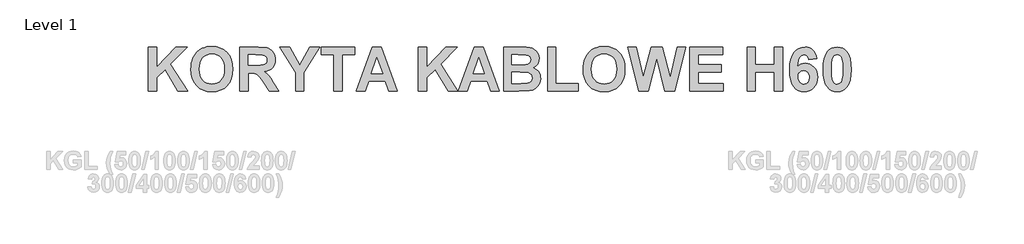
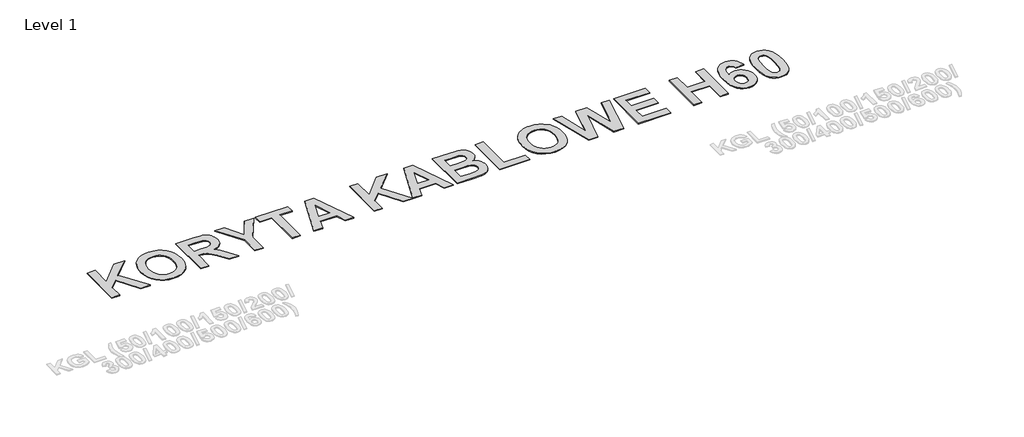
# One storey, part 26 of 42: 1 proxy.
"""IFC4 building model written with IfcOpenShell, lengths in millimetres."""

import ifcopenshell
import ifcopenshell.guid

model = None  # the IFC model being written
_history = None  # IfcOwnerHistory: only IFC2X3 demands one
_inside = {}  # id of a spatial element -> (the spatial element, [elements in it])
_under = {}  # id of a project, library or spatial element -> (it, [spatial elements below it])
_declared = {}  # id of a project -> (the project, [libraries it declares])
_typed = {}  # id of a type object -> (the type object, [elements of that type])
_made_of = {}  # id of a material, layer set ... -> (it, [elements and type objects made of it])


def new_model(schema):
    """Start an empty IFC model of exactly this schema.

    Asked for "IFC4X3", IfcOpenShell would pick the latest addendum, in which some entities
    have other attributes; the version numbers below select the first issue.
    IFC2X3 requires an IfcOwnerHistory on every rooted entity: one is made here for all.
    """
    global model, _history
    if schema == "IFC4X3":
        model = ifcopenshell.file(schema_version=(4, 3, 0, 0))
    else:
        model = ifcopenshell.file(schema=schema)
    _inside.clear()
    _under.clear()
    _declared.clear()
    _typed.clear()
    _made_of.clear()
    _history = None
    if model.schema == "IFC2X3":
        org = make("IfcOrganization", Name="unknown")
        user = make(
            "IfcPersonAndOrganization",
            ThePerson=make("IfcPerson", FamilyName="unknown"),
            TheOrganization=org,
        )
        app = make(
            "IfcApplication",
            ApplicationDeveloper=org,
            Version="unknown",
            ApplicationFullName="unknown",
            ApplicationIdentifier="unknown",
        )
        _history = make(
            "IfcOwnerHistory",
            OwningUser=user,
            OwningApplication=app,
            ChangeAction="ADDED",
            CreationDate=0,
        )
    return model


def make(cls, **values):
    """One entity of the class cls with the attributes given. An attribute that is None is left unset."""
    return model.create_entity(
        cls, **{name: value for name, value in values.items() if value is not None}
    )


def rooted(cls, **values):
    """An entity with a GlobalId (a new one), such as an element, a storey or a relation."""
    return make(cls, GlobalId=ifcopenshell.guid.new(), OwnerHistory=_history, **values)


def si_unit(unit_type, name, prefix=None):
    """IfcSIUnit, for example si_unit("LENGTHUNIT", "METRE", prefix="MILLI")."""
    return make("IfcSIUnit", UnitType=unit_type, Prefix=prefix, Name=name)


def assignment(units):
    """IfcUnitAssignment: the units of a project."""
    return None if units is None else make("IfcUnitAssignment", Units=units)


def point(xyz):
    """IfcCartesianPoint."""
    return None if xyz is None else make("IfcCartesianPoint", Coordinates=xyz)


def direction(xyz):
    """IfcDirection."""
    return None if xyz is None else make("IfcDirection", DirectionRatios=xyz)


def frame(location, z_axis=None, x_axis=None):
    """IfcAxis2Placement3D, a coordinate frame: its origin and axes. An axis left out is left unset."""
    return make(
        "IfcAxis2Placement3D",
        Location=point(location),
        Axis=direction(z_axis),
        RefDirection=direction(x_axis),
    )


def origin():
    """The frame at (0, 0, 0) with its axes left unset."""
    return frame((0.0, 0.0, 0.0))


def origin_with_axes():
    """The frame at (0, 0, 0) with the z axis (0, 0, 1) and the x axis (1, 0, 0) written out."""
    return frame((0.0, 0.0, 0.0), z_axis=(0.0, 0.0, 1.0), x_axis=(1.0, 0.0, 0.0))


def place(relative_to, where):
    """IfcLocalPlacement: puts the frame where relative to a parent placement (None: the world)."""
    return make(
        "IfcLocalPlacement", PlacementRelTo=relative_to, RelativePlacement=where
    )


def context(
    kind, dimensions, precision=None, world=None, true_north=None, identifier=None
):
    """IfcGeometricRepresentationContext, for example the 3D "Model" context."""
    return make(
        "IfcGeometricRepresentationContext",
        ContextIdentifier=identifier,
        ContextType=kind,
        CoordinateSpaceDimension=dimensions,
        Precision=precision,
        WorldCoordinateSystem=world,
        TrueNorth=true_north,
    )


def project(units=None, contexts=None):
    """IfcProject with its units and contexts."""
    return rooted(
        "IfcProject",
        Name="project",
        RepresentationContexts=contexts,
        UnitsInContext=assignment(units),
    )


def spatial(cls, under=None, at=None, **own):
    """A site, building, storey or space (cls), placed at a placement, below another one or the project."""
    s = rooted(cls, ObjectPlacement=at, **own)
    if under is not None:
        _under.setdefault(under.id(), (under, []))[1].append(s)
    return s


def polyline(points):
    """IfcPolyline through the points."""
    return make("IfcPolyline", Points=[point(p) for p in points])


def outline(outer, holes=None, kind="AREA"):
    """IfcArbitraryClosedProfileDef: a profile drawn as a closed curve; with holes, ...WithVoids."""
    if holes is None:
        return make("IfcArbitraryClosedProfileDef", ProfileType=kind, OuterCurve=outer)
    return make(
        "IfcArbitraryProfileDefWithVoids",
        ProfileType=kind,
        OuterCurve=outer,
        InnerCurves=holes,
    )


def extrude(swept, where, along, depth):
    """IfcExtrudedAreaSolid: the profile swept, set in the frame where, extruded along a direction by depth."""
    return make(
        "IfcExtrudedAreaSolid",
        SweptArea=swept,
        Position=where,
        ExtrudedDirection=direction(along),
        Depth=depth,
    )


def shape(context_of_items, identifier, shape_type, items):
    """IfcShapeRepresentation: the items that make up one representation, for example the "Body"."""
    return make(
        "IfcShapeRepresentation",
        ContextOfItems=context_of_items,
        RepresentationIdentifier=identifier,
        RepresentationType=shape_type,
        Items=items,
    )


def made_of(thing, what):
    """Note that an element or type object is made of a material, layer set ...; save() writes the relation."""
    if what is not None:
        _made_of.setdefault(what.id(), (what, []))[1].append(thing)
    return thing


def element(
    cls,
    number,
    at=None,
    inside=None,
    cuts=None,
    type_object=None,
    material=None,
    context=None,
    identifier="Body",
    shape_type=None,
    held_by="IfcProductDefinitionShape",
    body=None,
    shapes=None,
    **own,
):
    """One element of the class cls, such as IfcWall. Its Tag is "e" and its number.

    at: its placement. inside: the storey or other place that contains it. cuts: it is an
    opening in that element (IfcRelVoidsElement). A single representation is given by context,
    identifier, shape_type and body (its items); several are given by shapes. held_by: the class
    of the entity that holds the representations. save() writes the other relations.
    """
    e = rooted(cls, Tag="e%d" % number, ObjectPlacement=at, **own)
    if body is not None:
        shapes = [shape(context, identifier, shape_type, body)]
    if shapes is not None:
        e.Representation = make(held_by, Representations=shapes)
    if inside is not None:
        _inside.setdefault(inside.id(), (inside, []))[1].append(e)
    if cuts is not None:
        rooted(
            "IfcRelVoidsElement", RelatingBuildingElement=cuts, RelatedOpeningElement=e
        )
    if type_object is not None:
        _typed.setdefault(type_object.id(), (type_object, []))[1].append(e)
    return made_of(e, material)


def aggregate(whole, parts):
    """IfcRelAggregates: a whole, such as a stair, and the parts it consists of."""
    return rooted("IfcRelAggregates", RelatingObject=whole, RelatedObjects=parts)


def save(model, path):
    """Write the relations noted so far, then the file.

    IfcRelAggregates (storeys below a building ...), IfcRelContainedInSpatialStructure (elements
    in a storey), IfcRelDefinesByType, IfcRelAssociatesMaterial and IfcRelDeclares: one each for
    every whole, place, type object, material and project.
    """
    for whole, parts in _under.values():
        aggregate(whole, parts)
    for where, things in _inside.values():
        rooted(
            "IfcRelContainedInSpatialStructure",
            RelatedElements=things,
            RelatingStructure=where,
        )
    for kind, things in _typed.values():
        rooted("IfcRelDefinesByType", RelatedObjects=things, RelatingType=kind)
    for what, things in _made_of.values():
        rooted("IfcRelAssociatesMaterial", RelatedObjects=things, RelatingMaterial=what)
    for by, libraries in _declared.values():
        rooted("IfcRelDeclares", RelatingContext=by, RelatedDefinitions=libraries)
    model.write(path)


model = new_model("IFC4")

# Units and contexts
model_context = context("Model", 3, world=origin())
ifc_project = project(units=[si_unit("LENGTHUNIT", "METRE", prefix="MILLI")], contexts=[model_context])

# Site, building, storey
site = spatial("IfcSite", under=ifc_project)
building = spatial("IfcBuilding", under=site)
storey = spatial("IfcBuildingStorey", under=building, Name="Level 1", Elevation=0.0)

# Proxy
placement = place(None, origin())
element("IfcBuildingElementProxy", 1, Name="600mm Arial", ObjectType="600mm Arial", at=placement, inside=storey, context=model_context, shape_type="SweptSolid", body=[
    extrude(outline(polyline([(-15336.5349391, 22362.9826538), (-15336.5349391, 22975.1382937), (-15219.9338648, 22975.1382937), (-15219.9338648, 22696.0852019), (-14957.2777991, 22975.1382937), (-14797.2549705, 22975.1382937), (-15028.938876, 22741.3288479), (-14787.5382144, 22362.9826538), (-14923.8764496, 22362.9826538), (-15104.6992094, 22664.6575686), (-15219.9338648, 22548.2083186), (-15219.9338648, 22362.9826538), (-15336.5349391, 22362.9826538)])), origin_with_axes(), (0.0, 0.0, 1.0), 10.0),
    extrude(outline(polyline([(-14743.8128115, 22665.2648659), (-14742.0952989, 22710.072017), (-14736.9427612, 22751.1215163), (-14728.3551984, 22788.4133637), (-14716.3326104, 22821.9475594), (-14692.097654, 22866.1853693), (-14660.3853502, 22905.6786694), (-14623.245327, 22937.9982706), (-14582.7272128, 22960.7149838), (-14553.5579662, 22971.2762627), (-14522.2252231, 22978.8200334), (-14488.7289835, 22983.3462958), (-14453.0692474, 22984.8550499), (-14389.9672663, 22979.6218555), (-14333.5075989, 22963.9222724), (-14283.6902454, 22937.7563006), (-14240.5152057, 22901.1239399), (-14221.8336982, 22879.1699067), (-14205.6430583, 22855.173362), (-14180.7343815, 22801.052738), (-14165.7891754, 22738.7620681), (-14160.8074401, 22668.3013522), (-14165.7512194, 22598.3198317), (-14180.5825572, 22536.4039781), (-14205.3014536, 22482.5537912), (-14221.3687362, 22458.6533228), (-14239.9079085, 22436.7692711), (-14282.7982776, 22400.2365452), (-14332.3689166, 22374.1417409), (-14388.6198255, 22358.4848584), (-14451.5510042, 22353.2658976), (-14515.1464144, 22358.4611359), (-14571.8717742, 22374.0468507), (-14621.7270838, 22400.0230422), (-14664.7123431, 22436.3897103), (-14699.3187981, 22481.8658373), (-14724.0376944, 22535.1704055), (-14738.8690322, 22596.3034151), (-14743.8128115, 22665.2648659)]), holes=[polyline([(-14627.2117372, 22669.5159467), (-14624.1135723, 22621.0934791), (-14614.8190775, 22578.9147864), (-14599.3282528, 22542.9798688), (-14577.6410982, 22513.2887261), (-14551.1809667, 22490.0406278), (-14521.3712113, 22473.4348433), (-14488.2118319, 22463.4713726), (-14451.7028285, 22460.1502157), (-14415.2317813, 22463.44765), (-14382.1862701, 22473.3399531), (-14352.566295, 22489.8271248), (-14326.3718561, 22512.9091653), (-14304.9503941, 22542.5860744), (-14289.6493498, 22578.8578523), (-14280.4687232, 22621.7244989), (-14277.4085144, 22671.1860142), (-14280.3880666, 22719.9595755), (-14289.3267231, 22762.1287791), (-14304.2244841, 22797.693625), (-14325.0813494, 22826.6541132), (-14350.872505, 22849.1051338), (-14380.5731367, 22865.1415772), (-14414.1832446, 22874.7634432), (-14451.7028285, 22877.9707318), (-14489.2603686, 22874.7254871), (-14522.9843447, 22864.9897529), (-14552.8747568, 22848.7635291), (-14578.9316049, 22826.0468159), (-14600.0541628, 22796.7921681), (-14615.1417041, 22760.9521407), (-14624.194229, 22718.5267335), (-14627.2117372, 22669.5159467)])]), origin_with_axes(), (0.0, 0.0, 1.0), 10.0),
    extrude(outline(polyline([(-14063.6398782, 22362.9826538), (-14063.6398782, 22975.1382937), (-13806.1458392, 22975.1382937), (-13722.2629049, 22971.0010811), (-13690.2849084, 22965.8295654), (-13664.9492258, 22958.5894433), (-13644.0354263, 22948.7018848), (-13625.3230794, 22935.5880595), (-13608.8121851, 22919.2479676), (-13594.5027434, 22899.6816089), (-13582.9451174, 22877.7335063), (-13574.6896702, 22854.2481825), (-13569.7364019, 22829.2256375), (-13568.0853125, 22802.6658714), (-13570.471801, 22769.5586816), (-13577.6312663, 22739.469), (-13589.5637086, 22712.3968268), (-13606.2691278, 22688.3421618), (-13627.7285459, 22667.8838353), (-13653.9229849, 22651.6006775), (-13684.8524446, 22639.4926883), (-13720.5169252, 22631.5598678), (-13686.698059, 22607.1920652), (-13659.3317261, 22580.5468978), (-13631.0164913, 22541.9455656), (-13594.3509191, 22481.7092684), (-13519.5015316, 22362.9826538), (-13655.6879425, 22362.9826538), (-13744.3533428, 22502.8128483), (-13787.1867778, 22556.5017219), (-13813.9647914, 22585.7848367), (-13833.2844356, 22600.1891686), (-13853.7427621, 22609.2416934), (-13880.9003365, 22614.0241594), (-13920.3177244, 22615.6183147), (-13947.0388039, 22615.6183147), (-13947.0388039, 22362.9826538), (-14063.6398782, 22362.9826538)]), holes=[polyline([(-13947.0388039, 22722.5026328), (-13850.9340122, 22722.5026328), (-13775.0787886, 22724.2675905), (-13734.2570258, 22729.5624635), (-13713.4950506, 22739.1653514), (-13697.8191901, 22753.8543539), (-13687.9695876, 22773.2309322), (-13684.6863868, 22796.8965474), (-13689.0133798, 22823.1052198), (-13701.9943587, 22843.7343487), (-13722.8702021, 22858.2905049), (-13750.8817883, 22866.2802595), (-13845.6201612, 22868.2539756), (-13947.0388039, 22868.2539756), (-13947.0388039, 22722.5026328)])]), origin_with_axes(), (0.0, 0.0, 1.0), 10.0),
    extrude(outline(polyline([(-13286.299383, 22362.9826538), (-13286.299383, 22620.6285171), (-13504.9263973, 22975.1382937), (-13369.8027565, 22975.1382937), (-13228.3024945, 22723.565403), (-13086.1949352, 22975.1382937), (-12951.0712944, 22975.1382937), (-13169.6983087, 22619.7175712), (-13169.6983087, 22362.9826538), (-13286.299383, 22362.9826538)])), origin_with_axes(), (0.0, 0.0, 1.0), 10.0),
    extrude(outline(polyline([(-12751.8777925, 22362.9826538), (-12751.8777925, 22868.2539756), (-12926.779404, 22868.2539756), (-12926.779404, 22975.1382937), (-12460.3751068, 22975.1382937), (-12460.3751068, 22868.2539756), (-12635.2767183, 22868.2539756), (-12635.2767183, 22362.9826538), (-12751.8777925, 22362.9826538)])), origin_with_axes(), (0.0, 0.0, 1.0), 10.0),
    extrude(outline(polyline([(-11867.6529792, 22362.9826538), (-11990.1752018, 22362.9826538), (-12038.1516855, 22499.0172404), (-12269.380118, 22499.0172404), (-12316.7493044, 22362.9826538), (-12440.9415945, 22362.9826538), (-12217.4562021, 22975.1382937), (-12093.263912, 22975.1382937), (-11867.6529792, 22362.9826538)]), holes=[polyline([(-12075.5004671, 22605.9015585), (-12154.2972868, 22829.3869509), (-12232.0313364, 22605.9015585), (-12075.5004671, 22605.9015585)])]), origin_with_axes(), (0.0, 0.0, 1.0), 10.0),
    extrude(outline(polyline([(-11576.1502935, 22362.9826538), (-11576.1502935, 22975.1382937), (-11459.5492193, 22975.1382937), (-11459.5492193, 22696.0852019), (-11196.8931535, 22975.1382937), (-11036.870325, 22975.1382937), (-11268.5542304, 22741.3288479), (-11027.1535688, 22362.9826538), (-11163.4918041, 22362.9826538), (-11344.3145638, 22664.6575686), (-11459.5492193, 22548.2083186), (-11459.5492193, 22362.9826538), (-11576.1502935, 22362.9826538)])), origin_with_axes(), (0.0, 0.0, 1.0), 10.0),
    extrude(outline(polyline([(-10449.0065755, 22362.9826538), (-10571.5287981, 22362.9826538), (-10619.5052818, 22499.0172404), (-10850.7337142, 22499.0172404), (-10898.1029007, 22362.9826538), (-11022.2951907, 22362.9826538), (-10798.8097983, 22975.1382937), (-10674.6175083, 22975.1382937), (-10449.0065755, 22362.9826538)]), holes=[polyline([(-10656.8540634, 22605.9015585), (-10735.6508831, 22829.3869509), (-10813.3849326, 22605.9015585), (-10656.8540634, 22605.9015585)])]), origin_with_axes(), (0.0, 0.0, 1.0), 10.0),
    extrude(outline(polyline([(-10390.7060384, 22975.1382937), (-10139.4367963, 22975.1382937), (-10074.361099, 22973.6200506), (-10028.2254852, 22969.0653211), (-9993.495673, 22959.6711916), (-9962.6373809, 22943.6347483), (-9936.1250598, 22921.0888374), (-9914.4331607, 22892.1663053), (-9899.9718947, 22858.1007245), (-9895.1514727, 22820.1256676), (-9900.9018186, 22778.7535417), (-9918.1528565, 22740.873375), (-9945.2724748, 22709.2559613), (-9980.6285623, 22686.6720943), (-9956.8111228, 22677.1261405), (-9935.9163014, 22664.7334807), (-9917.944098, 22649.4941151), (-9902.8945127, 22631.4080435), (-9891.004771, 22611.0351182), (-9882.5120984, 22588.9351912), (-9877.4164948, 22565.1082627), (-9875.7179603, 22539.5543326), (-9880.5953164, 22498.5427894), (-9895.2273848, 22458.7078847), (-9918.3046808, 22423.4087313), (-9948.5177195, 22396.0044424), (-9986.2270839, 22377.045381), (-10031.7933566, 22367.0819103), (-10181.4921316, 22362.9826538), (-10390.7060384, 22362.9826538), (-10390.7060384, 22975.1382937)]), holes=[polyline([(-10274.1049641, 22625.3350709), (-10274.1049641, 22469.8669718), (-10150.8236199, 22469.8669718), (-10059.425382, 22473.5107554), (-10032.4386099, 22481.6523343), (-10010.9934254, 22496.6639635), (-9996.9876323, 22518.2419944), (-9992.3190346, 22546.0827782), (-9995.9248621, 22570.2228444), (-10006.7423445, 22590.4154783), (-10024.3539651, 22606.1672511), (-10048.342207, 22616.9847335), (-10091.4603126, 22623.2474865), (-10166.4615244, 22625.3350709), (-10274.1049641, 22625.3350709)]), polyline([(-10274.1049641, 22868.2539756), (-10274.1049641, 22732.219389), (-10185.1359152, 22732.219389), (-10086.4501102, 22734.1931051), (-10055.3830596, 22741.2908918), (-10031.7174444, 22755.2966849), (-10016.7437713, 22775.527275), (-10011.7525469, 22801.2994525), (-10016.0605619, 22825.9519257), (-10028.9846067, 22845.5562405), (-10050.3728572, 22859.277363), (-10080.0734889, 22866.2802595), (-10196.0672659, 22868.2539756), (-10274.1049641, 22868.2539756)])]), origin_with_axes(), (0.0, 0.0, 1.0), 10.0),
    extrude(outline(polyline([(-9778.5503984, 22362.9826538), (-9778.5503984, 22975.1382937), (-9661.9493241, 22975.1382937), (-9661.9493241, 22469.8669718), (-9351.013126, 22469.8669718), (-9351.013126, 22362.9826538), (-9778.5503984, 22362.9826538)])), origin_with_axes(), (0.0, 0.0, 1.0), 10.0),
    extrude(outline(polyline([(-9282.9958327, 22665.2648659), (-9281.2783201, 22710.072017), (-9276.1257824, 22751.1215163), (-9267.5382196, 22788.4133637), (-9255.5156316, 22821.9475594), (-9231.2806752, 22866.1853693), (-9199.5683713, 22905.6786694), (-9162.4283482, 22937.9982706), (-9121.910234, 22960.7149838), (-9092.7409874, 22971.2762627), (-9061.4082443, 22978.8200334), (-9027.9120047, 22983.3462958), (-8992.2522686, 22984.8550499), (-8929.1502874, 22979.6218555), (-8872.6906201, 22963.9222724), (-8822.8732666, 22937.7563006), (-8779.6982269, 22901.1239399), (-8761.0167193, 22879.1699067), (-8744.8260794, 22855.173362), (-8719.9174027, 22801.052738), (-8704.9721966, 22738.7620681), (-8699.9904613, 22668.3013522), (-8704.9342406, 22598.3198317), (-8719.7655784, 22536.4039781), (-8744.4844747, 22482.5537912), (-8760.5517574, 22458.6533228), (-8779.0909296, 22436.7692711), (-8821.9812988, 22400.2365452), (-8871.5519378, 22374.1417409), (-8927.8028466, 22358.4848584), (-8990.7340254, 22353.2658976), (-9054.3294355, 22358.4611359), (-9111.0547954, 22374.0468507), (-9160.910105, 22400.0230422), (-9203.8953643, 22436.3897103), (-9238.5018192, 22481.8658373), (-9263.2207156, 22535.1704055), (-9278.0520534, 22596.3034151), (-9282.9958327, 22665.2648659)]), holes=[polyline([(-9166.3947584, 22669.5159467), (-9163.2965935, 22621.0934791), (-9154.0020987, 22578.9147864), (-9138.511274, 22542.9798688), (-9116.8241194, 22513.2887261), (-9090.3639879, 22490.0406278), (-9060.5542325, 22473.4348433), (-9027.3948531, 22463.4713726), (-8990.8858497, 22460.1502157), (-8954.4148024, 22463.44765), (-8921.3692913, 22473.3399531), (-8891.7493162, 22489.8271248), (-8865.5548773, 22512.9091653), (-8844.1334153, 22542.5860744), (-8828.832371, 22578.8578523), (-8819.6517444, 22621.7244989), (-8816.5915356, 22671.1860142), (-8819.5710878, 22719.9595755), (-8828.5097443, 22762.1287791), (-8843.4075053, 22797.693625), (-8864.2643706, 22826.6541132), (-8890.0555262, 22849.1051338), (-8919.7561579, 22865.1415772), (-8953.3662658, 22874.7634432), (-8990.8858497, 22877.9707318), (-9028.4433898, 22874.7254871), (-9062.1673658, 22864.9897529), (-9092.0577779, 22848.7635291), (-9118.1146261, 22826.0468159), (-9139.237184, 22796.7921681), (-9154.3247253, 22760.9521407), (-9163.3772501, 22718.5267335), (-9166.3947584, 22669.5159467)])]), origin_with_axes(), (0.0, 0.0, 1.0), 10.0),
    extrude(outline(polyline([(-8507.0217563, 22362.9826538), (-8661.1234365, 22975.1382937), (-8541.4858759, 22975.1382937), (-8442.4964222, 22554.5849399), (-8336.0675771, 22975.1382937), (-8179.2330592, 22975.1382937), (-8073.259687, 22547.6010214), (-7974.2702333, 22975.1382937), (-7854.6326727, 22975.1382937), (-8006.4569882, 22362.9826538), (-8144.465291, 22362.9826538), (-8257.8780546, 22820.5811406), (-8373.568183, 22362.9826538), (-8507.0217563, 22362.9826538)])), origin_with_axes(), (0.0, 0.0, 1.0), 10.0),
    extrude(outline(polyline([(-7796.3321356, 22362.9826538), (-7796.3321356, 22975.1382937), (-7339.6445947, 22975.1382937), (-7339.6445947, 22868.2539756), (-7679.7310613, 22868.2539756), (-7679.7310613, 22732.219389), (-7359.0781071, 22732.219389), (-7359.0781071, 22625.3350709), (-7679.7310613, 22625.3350709), (-7679.7310613, 22469.8669718), (-7329.9278385, 22469.8669718), (-7329.9278385, 22362.9826538), (-7796.3321356, 22362.9826538)])), origin_with_axes(), (0.0, 0.0, 1.0), 10.0),
    extrude(outline(polyline([(-6999.558128, 22362.9826538), (-6999.558128, 22975.1382937), (-6882.9570537, 22975.1382937), (-6882.9570537, 22732.219389), (-6620.6046366, 22732.219389), (-6620.6046366, 22975.1382937), (-6504.0035623, 22975.1382937), (-6504.0035623, 22362.9826538), (-6620.6046366, 22362.9826538), (-6620.6046366, 22625.3350709), (-6882.9570537, 22625.3350709), (-6882.9570537, 22362.9826538), (-6999.558128, 22362.9826538)])), origin_with_axes(), (0.0, 0.0, 1.0), 10.0),
    extrude(outline(polyline([(-6027.882509, 22812.6862762), (-6144.4835833, 22800.2366823), (-6151.6193261, 22830.4686991), (-6165.1316902, 22851.6292131), (-6184.3374661, 22864.097785), (-6208.5534444, 22868.2539756), (-6225.5577678, 22866.2375589), (-6241.1956722, 22860.1883089), (-6255.4671579, 22850.1062254), (-6268.3722247, 22835.9913086), (-6279.4648888, 22815.4238584), (-6288.2991661, 22785.9841747), (-6294.8750568, 22747.6722576), (-6299.1925608, 22700.488107), (-6276.4758476, 22722.8727046), (-6251.1401649, 22738.8617028), (-6223.1855128, 22748.4551017), (-6192.6118913, 22751.6529014), (-6157.9247797, 22748.2368543), (-6125.8281705, 22737.988713), (-6096.3220637, 22720.9084775), (-6069.4064593, 22696.9961478), (-6046.9886502, 22667.6845659), (-6030.9759294, 22634.4065737), (-6021.368297, 22597.1621713), (-6018.1657528, 22555.9513587), (-6021.4394646, 22512.3635466), (-6031.2606, 22473.301997), (-6047.629159, 22438.7667097), (-6070.5451417, 22408.7576849), (-6098.604173, 22384.4800279), (-6130.401878, 22367.1388444), (-6165.9382569, 22356.7341343), (-6205.2133095, 22353.2658976), (-6247.2876229, 22357.7447149), (-6285.4524602, 22371.1811668), (-6319.7078214, 22393.5752533), (-6350.0537064, 22424.9269745), (-6374.8959601, 22466.4793918), (-6392.6404269, 22519.4755669), (-6403.2871071, 22583.9154998), (-6406.8360004, 22659.7991905), (-6403.1305382, 22737.6850643), (-6392.0141516, 22803.8804659), (-6373.4868406, 22858.3853951), (-6347.5486052, 22901.1998521), (-6315.6892215, 22933.5479203), (-6279.3984656, 22956.6536833), (-6238.6763375, 22970.5171411), (-6193.5228372, 22975.1382937), (-6161.7061541, 22972.5383023), (-6132.7551549, 22964.7383281), (-6106.6698397, 22951.7383711), (-6083.4502085, 22933.5384313), (-6063.6371353, 22910.3852232), (-6047.7714943, 22882.5254613), (-6035.8532856, 22849.9591456), (-6027.882509, 22812.6862762)]), holes=[polyline([(-6290.2349261, 22558.5323721), (-6288.6597489, 22536.2758763), (-6283.9342171, 22516.7237512), (-6276.0583307, 22499.8759967), (-6265.0320898, 22485.7326128), (-6238.0453177, 22466.5458149), (-6223.2139799, 22461.7491155), (-6207.4906742, 22460.1502157), (-6178.9477029, 22465.3881545), (-6155.5667583, 22481.1019712), (-6146.4667884, 22493.2574054), (-6139.9668099, 22508.7719527), (-6134.7668271, 22549.8783861), (-6136.1664575, 22572.8275803), (-6140.3653487, 22592.4840846), (-6147.3635008, 22608.8478991), (-6157.1609136, 22621.9190238), (-6182.344772, 22639.0561934), (-6213.1081739, 22644.7685833), (-6242.9606299, 22639.3029079), (-6267.8408396, 22622.9058818), (-6277.6382525, 22610.6840244), (-6284.6364045, 22595.8811537), (-6290.2349261, 22558.5323721)])]), origin_with_axes(), (0.0, 0.0, 1.0), 10.0),
    extrude(outline(polyline([(-5746.0965795, 22975.1382937), (-5704.9806571, 22971.1908615), (-5668.6282225, 22959.3485649), (-5637.0392759, 22939.6114039), (-5610.2138172, 22911.9793785), (-5584.640909, 22868.4722231), (-5566.3745461, 22812.6483201), (-5555.4147283, 22744.5076695), (-5551.7614557, 22664.0502713), (-5555.4337063, 22583.6687853), (-5566.4504582, 22515.4522226), (-5584.8117114, 22459.4005831), (-5610.5174658, 22415.5138669), (-5637.2100783, 22388.2803803), (-5668.7041347, 22368.8278899), (-5704.9996351, 22357.1563956), (-5746.0965795, 22353.2658976), (-5787.6347633, 22357.5359564), (-5824.9503333, 22370.3461331), (-5858.0432896, 22391.6964274), (-5886.9136321, 22421.5868395), (-5910.3277883, 22462.4370694), (-5927.0521855, 22516.6668171), (-5937.0868239, 22584.2760826), (-5940.4317033, 22665.2648659), (-5936.7594527, 22745.247813), (-5925.7427008, 22813.1797052), (-5907.3814476, 22869.0605423), (-5881.6756932, 22912.8903244), (-5854.9830808, 22940.123811), (-5823.4890243, 22959.5763014), (-5787.1935239, 22971.2477956), (-5746.0965795, 22975.1382937)]), holes=[polyline([(-5746.0965795, 22868.2539756), (-5766.6687742, 22865.046687), (-5784.9636043, 22855.424821), (-5800.1460358, 22837.4905737), (-5811.3810352, 22809.3461412), (-5820.7182306, 22751.3872088), (-5823.830629, 22664.0502713), (-5821.0598353, 22577.8709943), (-5812.747454, 22523.6886917), (-5800.2029699, 22491.8814976), (-5784.7358678, 22472.827546), (-5766.6118401, 22463.3195482), (-5746.0965795, 22460.1502157), (-5725.5243848, 22463.3575043), (-5707.2295547, 22472.9793703), (-5692.0471232, 22490.9136176), (-5680.8121238, 22519.0580501), (-5671.4749284, 22576.7133339), (-5668.36253, 22664.0502713), (-5671.1333237, 22750.1346582), (-5679.445705, 22804.3359388), (-5691.9901891, 22836.2380231), (-5707.4572912, 22855.424821), (-5725.5813189, 22865.046687), (-5746.0965795, 22868.2539756)])]), origin_with_axes(), (0.0, 0.0, 1.0), 10.0),
])

save(model, "model.ifc")
